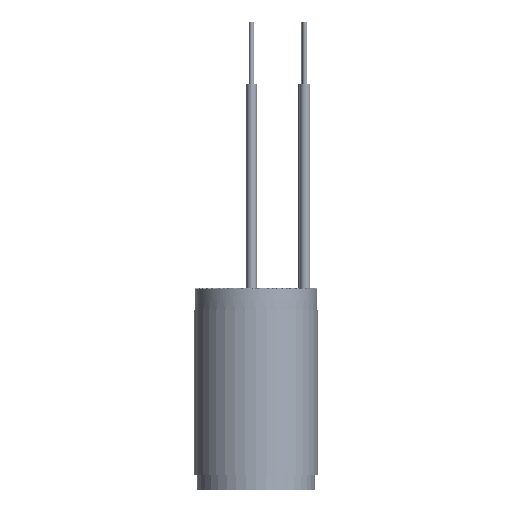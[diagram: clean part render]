
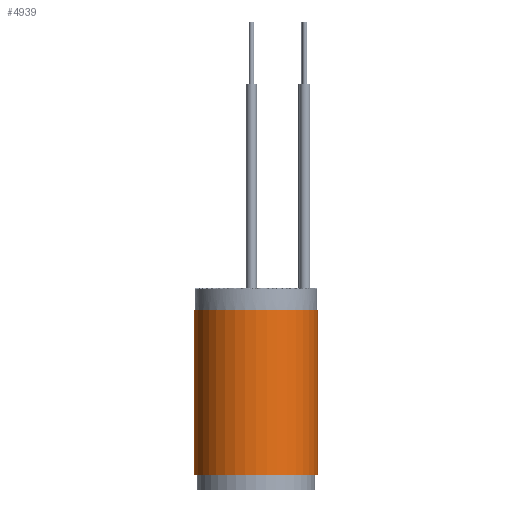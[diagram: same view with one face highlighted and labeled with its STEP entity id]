
A CAD part, front view. The second image highlights one B-rep face of the part: STEP entity #4939.
In plain terms, the highlighted cylindrical face has radius 6 mm (diameter 12 mm), a partial arc.
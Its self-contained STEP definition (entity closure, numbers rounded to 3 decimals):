
#334 = CARTESIAN_POINT ( 'NONE',  ( -6., 0., 16. ) ) ;
#3070 = CARTESIAN_POINT ( 'NONE',  ( 6., 0., 16. ) ) ;
#3976 = EDGE_CURVE ( 'NONE', #4832, #26147, #17952, .T. ) ;
#4832 = VERTEX_POINT ( 'NONE', #334 ) ;
#4939 = ADVANCED_FACE ( 'NONE', ( #10121 ), #12421, .T. ) ;
#5961 = ORIENTED_EDGE ( 'NONE', *, *, #3976, .T. ) ;
#6375 = CARTESIAN_POINT ( 'NONE',  ( 0., 0., 16. ) ) ;
#7806 = ORIENTED_EDGE ( 'NONE', *, *, #28135, .F. ) ;
#8082 = VECTOR ( 'NONE', #25239, 1000. ) ;
#8265 = CARTESIAN_POINT ( 'NONE',  ( 6., 0., 0. ) ) ;
#8770 = DIRECTION ( 'NONE',  ( 0., 0., -1. ) ) ;
#9414 = CIRCLE ( 'NONE', #24178, 6. ) ;
#10121 = FACE_OUTER_BOUND ( 'NONE', #24996, .T. ) ;
#12421 = CYLINDRICAL_SURFACE ( 'NONE', #22806, 6. ) ;
#13058 = EDGE_CURVE ( 'NONE', #26147, #25046, #9414, .T. ) ;
#13424 = CIRCLE ( 'NONE', #26094, 6. ) ;
#13565 = VERTEX_POINT ( 'NONE', #3070 ) ;
#16445 = DIRECTION ( 'NONE',  ( 0., 0., 1. ) ) ;
#17952 = LINE ( 'NONE', #18266, #8082 ) ;
#18266 = CARTESIAN_POINT ( 'NONE',  ( -6., 0., 16. ) ) ;
#19319 = DIRECTION ( 'NONE',  ( 1., 0., 0. ) ) ;
#21182 = CARTESIAN_POINT ( 'NONE',  ( 6., 0., 16. ) ) ;
#22510 = CARTESIAN_POINT ( 'NONE',  ( 0., 0., 16. ) ) ;
#22626 = VECTOR ( 'NONE', #8770, 1000. ) ;
#22806 = AXIS2_PLACEMENT_3D ( 'NONE', #22510, #32619, #27813 ) ;
#24178 = AXIS2_PLACEMENT_3D ( 'NONE', #27453, #27274, #19319 ) ;
#24192 = ORIENTED_EDGE ( 'NONE', *, *, #32436, .F. ) ;
#24996 = EDGE_LOOP ( 'NONE', ( #24192, #7806, #5961, #25025 ) ) ;
#25025 = ORIENTED_EDGE ( 'NONE', *, *, #13058, .T. ) ;
#25046 = VERTEX_POINT ( 'NONE', #8265 ) ;
#25239 = DIRECTION ( 'NONE',  ( 0., 0., -1. ) ) ;
#25287 = CARTESIAN_POINT ( 'NONE',  ( -6., 0., 0. ) ) ;
#26094 = AXIS2_PLACEMENT_3D ( 'NONE', #6375, #16445, #31228 ) ;
#26147 = VERTEX_POINT ( 'NONE', #25287 ) ;
#27274 = DIRECTION ( 'NONE',  ( 0., 0., 1. ) ) ;
#27453 = CARTESIAN_POINT ( 'NONE',  ( 0., 0., 0. ) ) ;
#27813 = DIRECTION ( 'NONE',  ( -1., 0., 0. ) ) ;
#28135 = EDGE_CURVE ( 'NONE', #4832, #13565, #13424, .T. ) ;
#31228 = DIRECTION ( 'NONE',  ( 1., 0., 0. ) ) ;
#31452 = LINE ( 'NONE', #21182, #22626 ) ;
#32436 = EDGE_CURVE ( 'NONE', #13565, #25046, #31452, .T. ) ;
#32619 = DIRECTION ( 'NONE',  ( 0., 0., -1. ) ) ;
